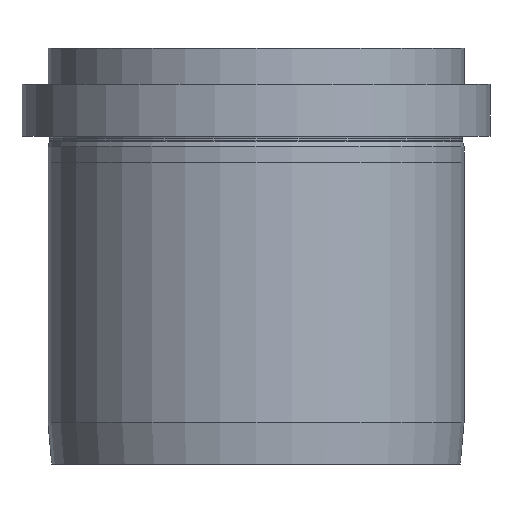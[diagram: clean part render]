
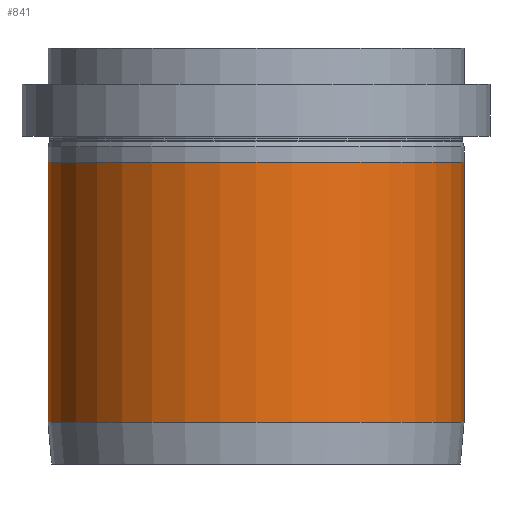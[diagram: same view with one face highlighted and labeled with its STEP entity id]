
A CAD part, left-side view. The second image highlights one B-rep face of the part: STEP entity #841.
In plain terms, the highlighted cylindrical face has radius 40 mm (diameter 80 mm), a partial arc.
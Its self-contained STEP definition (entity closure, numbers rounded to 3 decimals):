
#594=CARTESIAN_POINT('Vertex',(0.,40.,58.)) ;
#601=CARTESIAN_POINT('Vertex',(0.,-40.,58.)) ;
#616=CARTESIAN_POINT('Axis2P3D Location',(0.,0.,58.)) ;
#749=CARTESIAN_POINT('Axis2P3D Location',(0.,0.,8.)) ;
#753=CARTESIAN_POINT('Vertex',(0.,40.,8.)) ;
#755=CARTESIAN_POINT('Vertex',(0.,-40.,8.)) ;
#820=CARTESIAN_POINT('Axis2P3D Location',(0.,0.,33.)) ;
#825=CARTESIAN_POINT('Line Origine',(0.,40.,33.)) ;
#830=CARTESIAN_POINT('Line Origine',(0.,-40.,33.)) ;
#617=DIRECTION('Axis2P3D Direction',(0.,0.,1.)) ;
#750=DIRECTION('Axis2P3D Direction',(0.,0.,1.)) ;
#821=DIRECTION('Axis2P3D Direction',(0.,0.,1.)) ;
#822=DIRECTION('Axis2P3D XDirection',(0.,1.,0.)) ;
#826=DIRECTION('Vector Direction',(0.,0.,1.)) ;
#831=DIRECTION('Vector Direction',(0.,0.,1.)) ;
#618=AXIS2_PLACEMENT_3D('Circle Axis2P3D',#616,#617,$) ;
#751=AXIS2_PLACEMENT_3D('Circle Axis2P3D',#749,#750,$) ;
#823=AXIS2_PLACEMENT_3D('Cylinder Axis2P3D',#820,#821,#822) ;
#836=ORIENTED_EDGE('',*,*,#829,.F.) ;
#837=ORIENTED_EDGE('',*,*,#757,.T.) ;
#838=ORIENTED_EDGE('',*,*,#834,.T.) ;
#839=ORIENTED_EDGE('',*,*,#620,.F.) ;
#827=VECTOR('Line Direction',#826,1.) ;
#832=VECTOR('Line Direction',#831,1.) ;
#841=ADVANCED_FACE('PartBody',(#840),#824,.T.) ;
#619=CIRCLE('generated circle',#618,40.) ;
#752=CIRCLE('generated circle',#751,40.) ;
#824=CYLINDRICAL_SURFACE('generated cylinder',#823,40.) ;
#620=EDGE_CURVE('',#595,#602,#619,.T.) ;
#757=EDGE_CURVE('',#754,#756,#752,.T.) ;
#829=EDGE_CURVE('',#754,#595,#828,.T.) ;
#834=EDGE_CURVE('',#756,#602,#833,.T.) ;
#835=EDGE_LOOP('',(#836,#837,#838,#839)) ;
#840=FACE_OUTER_BOUND('',#835,.T.) ;
#828=LINE('Line',#825,#827) ;
#833=LINE('Line',#830,#832) ;
#595=VERTEX_POINT('',#594) ;
#602=VERTEX_POINT('',#601) ;
#754=VERTEX_POINT('',#753) ;
#756=VERTEX_POINT('',#755) ;
